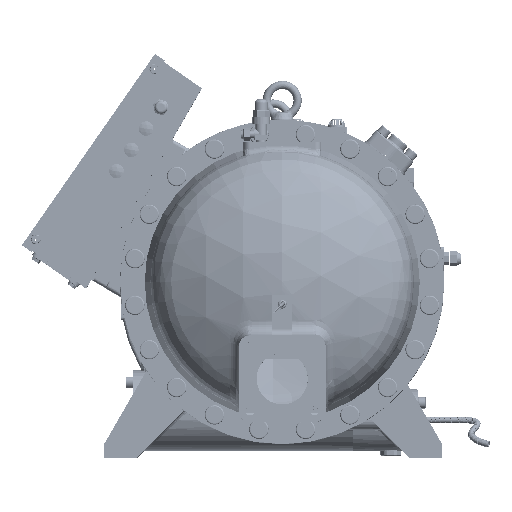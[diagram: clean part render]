
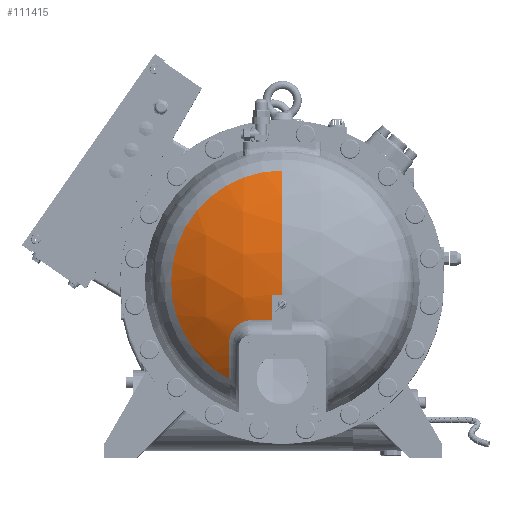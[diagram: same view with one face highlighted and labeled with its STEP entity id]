
A CAD part, top view. The second image highlights one B-rep face of the part: STEP entity #111415.
In plain terms, the highlighted spherical face has radius 319 mm.
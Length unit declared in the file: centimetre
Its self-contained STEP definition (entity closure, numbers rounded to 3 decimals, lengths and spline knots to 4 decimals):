
#1335 = VERTEX_POINT ( 'NONE', #136465 ) ;
#2451 = AXIS2_PLACEMENT_3D ( 'NONE', #21026, #96827, #31909 ) ;
#5362 = CARTESIAN_POINT ( 'NONE',  ( 1.4, 1.4, 5.25 ) ) ;
#6658 = CARTESIAN_POINT ( 'NONE',  ( -6.7867, 1.4, 5.25 ) ) ;
#8776 = DIRECTION ( 'NONE',  ( 0., 1., 0. ) ) ;
#9448 = VERTEX_POINT ( 'NONE', #30358 ) ;
#9732 = CIRCLE ( 'NONE', #2451, 31.3443 ) ;
#9875 = B_SPLINE_CURVE_WITH_KNOTS ( 'NONE', 3,
 ( #130478, #130771, #130458, #130319, #130177, #130013, #129986, #129844, #129821, #129698, #129533, #129512, #129368, #129341, #129227, #129065, #129043, #128896, #128874, #128762, #128607, #128589, #128448, #128424, #128308, #128114, #127947, #127831, #127510, #127491, #127372, #127203, #127010, #126710 ),
 .UNSPECIFIED., .F., .F.,
 ( 4, 2, 2, 2, 2, 2, 2, 2, 2, 2, 2, 2, 2, 2, 2, 2, 4 ),
 ( 0., 0.0073, 0.0091, 0.0109, 0.0145, 0.0182, 0.02, 0.0218, 0.029, 0.0327, 0.0345, 0.0363, 0.0436, 0.0454, 0.0472, 0.0508, 0.0581 ),
 .UNSPECIFIED. ) ;
#11774 = ORIENTED_EDGE ( 'NONE', *, *, #83731, .F. ) ;
#14139 = CARTESIAN_POINT ( 'NONE',  ( 1.4, 1.4, 37.15 ) ) ;
#15699 = DIRECTION ( 'NONE',  ( -1., 0., 0. ) ) ;
#16125 = DIRECTION ( 'NONE',  ( 1., 0., 0. ) ) ;
#17425 = DIRECTION ( 'NONE',  ( 0., 0., -1. ) ) ;
#18391 = ORIENTED_EDGE ( 'NONE', *, *, #138541, .F. ) ;
#20247 = EDGE_CURVE ( 'NONE', #37897, #132401, #9875, .T. ) ;
#21026 = CARTESIAN_POINT ( 'NONE',  ( 1.4, -4.5283, 5.25 ) ) ;
#21473 = AXIS2_PLACEMENT_3D ( 'NONE', #6658, #82307, #17425 ) ;
#22402 = DIRECTION ( 'NONE',  ( 1., 0., 0. ) ) ;
#26970 = DIRECTION ( 'NONE',  ( 0., 1., 0. ) ) ;
#27290 = VERTEX_POINT ( 'NONE', #57851 ) ;
#27634 = ORIENTED_EDGE ( 'NONE', *, *, #70585, .T. ) ;
#30358 = CARTESIAN_POINT ( 'NONE',  ( 1.4, 18.5239, 32.1643 ) ) ;
#31909 = DIRECTION ( 'NONE',  ( -1., 0., 0. ) ) ;
#32373 = ORIENTED_EDGE ( 'NONE', *, *, #101964, .T. ) ;
#33123 = CARTESIAN_POINT ( 'NONE',  ( -6.7867, -13.6402, 32.1643 ) ) ;
#33865 = ORIENTED_EDGE ( 'NONE', *, *, #95974, .T. ) ;
#34217 = CIRCLE ( 'NONE', #21473, 30.8316 ) ;
#37897 = VERTEX_POINT ( 'NONE', #84848 ) ;
#38680 = AXIS2_PLACEMENT_3D ( 'NONE', #80581, #15699, #91456 ) ;
#42734 = AXIS2_PLACEMENT_3D ( 'NONE', #73525, #8776, #84452 ) ;
#42957 = AXIS2_PLACEMENT_3D ( 'NONE', #112177, #47200, #123217 ) ;
#46102 = CARTESIAN_POINT ( 'NONE',  ( -3.258, -4.5283, 36.2463 ) ) ;
#46742 = CARTESIAN_POINT ( 'NONE',  ( 1.4, 1.4, 5.25 ) ) ;
#47200 = DIRECTION ( 'NONE',  ( 0., 0., -1. ) ) ;
#54335 = DIRECTION ( 'NONE',  ( 0., 0., -1. ) ) ;
#55099 = AXIS2_PLACEMENT_3D ( 'NONE', #5362, #16125, #26970 ) ;
#57607 = DIRECTION ( 'NONE',  ( 0., 0., 1. ) ) ;
#57851 = CARTESIAN_POINT ( 'NONE',  ( -0.1, -4.5283, 36.5584 ) ) ;
#70585 = EDGE_CURVE ( 'NONE', #89189, #109985, #86119, .T. ) ;
#71775 = CIRCLE ( 'NONE', #38680, 31.8647 ) ;
#73525 = CARTESIAN_POINT ( 'NONE',  ( 1.4, -0.6, 5.25 ) ) ;
#80581 = CARTESIAN_POINT ( 'NONE',  ( -0.1, 1.4, 5.25 ) ) ;
#80931 = ORIENTED_EDGE ( 'NONE', *, *, #113617, .F. ) ;
#82042 = EDGE_LOOP ( 'NONE', ( #18391, #32373, #11774, #80931, #108630, #87635, #33865, #120971, #27634 ) ) ;
#82307 = DIRECTION ( 'NONE',  ( -1., 0., 0. ) ) ;
#82566 = AXIS2_PLACEMENT_3D ( 'NONE', #87314, #22402, #98193 ) ;
#83731 = EDGE_CURVE ( 'NONE', #1335, #9448, #123900, .T. ) ;
#84452 = DIRECTION ( 'NONE',  ( 1., 0., 0. ) ) ;
#84588 = CIRCLE ( 'NONE', #98948, 17.1239 ) ;
#84848 = CARTESIAN_POINT ( 'NONE',  ( -6.7867, -8.0571, 34.5954 ) ) ;
#86119 = CIRCLE ( 'NONE', #42734, 31.8372 ) ;
#87314 = CARTESIAN_POINT ( 'NONE',  ( 1.4, 1.4, 5.25 ) ) ;
#87635 = ORIENTED_EDGE ( 'NONE', *, *, #20247, .T. ) ;
#89189 = VERTEX_POINT ( 'NONE', #114738 ) ;
#91456 = DIRECTION ( 'NONE',  ( 0., 0., -1. ) ) ;
#92241 = VERTEX_POINT ( 'NONE', #33123 ) ;
#92517 = AXIS2_PLACEMENT_3D ( 'NONE', #46742, #122778, #57607 ) ;
#95974 = EDGE_CURVE ( 'NONE', #132401, #27290, #9732, .T. ) ;
#96827 = DIRECTION ( 'NONE',  ( 0., 1., 0. ) ) ;
#98193 = DIRECTION ( 'NONE',  ( 0., 0., -1. ) ) ;
#98948 = AXIS2_PLACEMENT_3D ( 'NONE', #119459, #54335, #130477 ) ;
#101964 = EDGE_CURVE ( 'NONE', #101973, #9448, #108916, .T. ) ;
#101973 = VERTEX_POINT ( 'NONE', #14139 ) ;
#108630 = ORIENTED_EDGE ( 'NONE', *, *, #120181, .T. ) ;
#108916 = CIRCLE ( 'NONE', #92517, 31.9 ) ;
#109985 = VERTEX_POINT ( 'NONE', #110834 ) ;
#110727 = EDGE_CURVE ( 'NONE', #27290, #89189, #71775, .T. ) ;
#110834 = CARTESIAN_POINT ( 'NONE',  ( 1.4, -0.6, 37.0872 ) ) ;
#111415 = ADVANCED_FACE ( 'NONE', ( #134486 ), #131059, .T. ) ;
#112177 = CARTESIAN_POINT ( 'NONE',  ( 1.4, 1.4, 32.1643 ) ) ;
#113617 = EDGE_CURVE ( 'NONE', #92241, #1335, #84588, .T. ) ;
#114738 = CARTESIAN_POINT ( 'NONE',  ( -0.1, -0.6, 37.0519 ) ) ;
#119459 = CARTESIAN_POINT ( 'NONE',  ( 1.4, 1.4, 32.1643 ) ) ;
#120181 = EDGE_CURVE ( 'NONE', #92241, #37897, #34217, .T. ) ;
#120971 = ORIENTED_EDGE ( 'NONE', *, *, #110727, .T. ) ;
#122778 = DIRECTION ( 'NONE',  ( -1., 0., 0. ) ) ;
#123217 = DIRECTION ( 'NONE',  ( -1., 0., 0. ) ) ;
#123900 = CIRCLE ( 'NONE', #42957, 17.1239 ) ;
#126710 = CARTESIAN_POINT ( 'NONE',  ( -3.258, -4.5283, 36.2463 ) ) ;
#127010 = CARTESIAN_POINT ( 'NONE',  ( -3.4989, -4.5283, 36.2101 ) ) ;
#127203 = CARTESIAN_POINT ( 'NONE',  ( -3.7342, -4.5527, 36.1672 ) ) ;
#127372 = CARTESIAN_POINT ( 'NONE',  ( -4.0796, -4.6233, 36.0934 ) ) ;
#127491 = CARTESIAN_POINT ( 'NONE',  ( -4.1935, -4.6525, 36.0673 ) ) ;
#127510 = CARTESIAN_POINT ( 'NONE',  ( -4.3623, -4.7051, 36.0256 ) ) ;
#127831 = CARTESIAN_POINT ( 'NONE',  ( -4.4184, -4.7241, 36.0113 ) ) ;
#127947 = CARTESIAN_POINT ( 'NONE',  ( -4.529, -4.7647, 35.982 ) ) ;
#128114 = CARTESIAN_POINT ( 'NONE',  ( -4.5836, -4.7862, 35.9671 ) ) ;
#128308 = CARTESIAN_POINT ( 'NONE',  ( -4.8524, -4.9004, 35.8912 ) ) ;
#128424 = CARTESIAN_POINT ( 'NONE',  ( -5.0552, -5.0115, 35.826 ) ) ;
#128448 = CARTESIAN_POINT ( 'NONE',  ( -5.2938, -5.1742, 35.7391 ) ) ;
#128589 = CARTESIAN_POINT ( 'NONE',  ( -5.3408, -5.208, 35.7215 ) ) ;
#128607 = CARTESIAN_POINT ( 'NONE',  ( -5.4332, -5.2779, 35.6856 ) ) ;
#128762 = CARTESIAN_POINT ( 'NONE',  ( -5.4787, -5.3141, 35.6674 ) ) ;
#128874 = CARTESIAN_POINT ( 'NONE',  ( -5.6115, -5.4253, 35.6124 ) ) ;
#128896 = CARTESIAN_POINT ( 'NONE',  ( -5.6957, -5.5032, 35.5753 ) ) ;
#129043 = CARTESIAN_POINT ( 'NONE',  ( -5.9356, -5.7474, 35.4621 ) ) ;
#129065 = CARTESIAN_POINT ( 'NONE',  ( -6.0787, -5.9244, 35.3846 ) ) ;
#129227 = CARTESIAN_POINT ( 'NONE',  ( -6.2363, -6.1637, 35.2848 ) ) ;
#129341 = CARTESIAN_POINT ( 'NONE',  ( -6.2668, -6.2125, 35.2647 ) ) ;
#129368 = CARTESIAN_POINT ( 'NONE',  ( -6.3249, -6.3108, 35.2247 ) ) ;
#129512 = CARTESIAN_POINT ( 'NONE',  ( -6.3527, -6.3606, 35.2047 ) ) ;
#129533 = CARTESIAN_POINT ( 'NONE',  ( -6.4322, -6.5113, 35.1447 ) ) ;
#129698 = CARTESIAN_POINT ( 'NONE',  ( -6.4801, -6.6139, 35.1047 ) ) ;
#129821 = CARTESIAN_POINT ( 'NONE',  ( -6.5659, -6.8233, 35.0249 ) ) ;
#129844 = CARTESIAN_POINT ( 'NONE',  ( -6.6038, -6.93, 34.9851 ) ) ;
#129986 = CARTESIAN_POINT ( 'NONE',  ( -6.6531, -7.0934, 34.9253 ) ) ;
#130013 = CARTESIAN_POINT ( 'NONE',  ( -6.6682, -7.1483, 34.9054 ) ) ;
#130177 = CARTESIAN_POINT ( 'NONE',  ( -6.6959, -7.2594, 34.8656 ) ) ;
#130319 = CARTESIAN_POINT ( 'NONE',  ( -6.7084, -7.3155, 34.8457 ) ) ;
#130458 = CARTESIAN_POINT ( 'NONE',  ( -6.7641, -7.5971, 34.7469 ) ) ;
#130477 = DIRECTION ( 'NONE',  ( -1., 0., 0. ) ) ;
#130478 = CARTESIAN_POINT ( 'NONE',  ( -6.7867, -8.0571, 34.5954 ) ) ;
#130771 = CARTESIAN_POINT ( 'NONE',  ( -6.7867, -7.8255, 34.67 ) ) ;
#131059 = SPHERICAL_SURFACE ( 'NONE', #55099, 31.9 ) ;
#132401 = VERTEX_POINT ( 'NONE', #46102 ) ;
#134486 = FACE_OUTER_BOUND ( 'NONE', #82042, .T. ) ;
#135335 = CIRCLE ( 'NONE', #82566, 31.9 ) ;
#136465 = CARTESIAN_POINT ( 'NONE',  ( -15.7239, 1.4, 32.1643 ) ) ;
#138541 = EDGE_CURVE ( 'NONE', #101973, #109985, #135335, .T. ) ;
